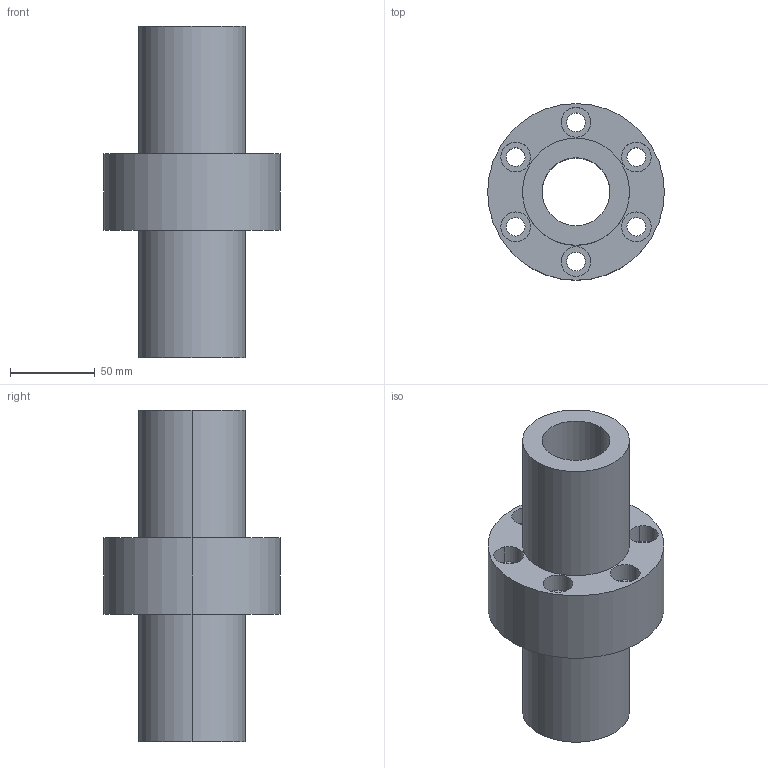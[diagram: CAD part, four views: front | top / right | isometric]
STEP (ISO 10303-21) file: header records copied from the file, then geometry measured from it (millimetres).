
FILE_DESCRIPTION((''),'2;1');
FILE_NAME('40-10T4','2008-04-07T',('yanyu'),(''),'PRO/ENGINEER BY PARAMETRIC TECHNOLOGY CORPORATION, 2005070','PRO/ENGINEER BY PARAMETRIC TECHNOLOGY CORPORATION, 2005070','');
FILE_SCHEMA(('CONFIG_CONTROL_DESIGN'));
Length unit declared in the file: millimetre
Products named in the file (1): 40-10T4
Bounding box: 104 x 104 x 195 mm (x, y, z)
Volume: 569549.9 mm3; surface area: 92909.5 mm2
Topology: 1 solids, 1 shells, 42 faces, 104 edges, 72 vertices
Faces by surface type: cylinder 32, plane 10
Entity records: 1370 total; most frequent: DIRECTION 260, CARTESIAN_POINT 218, ORIENTED_EDGE 208, AXIS2_PLACEMENT_3D 114, EDGE_CURVE 104, VERTEX_POINT 72, CIRCLE 72, EDGE_LOOP 64
